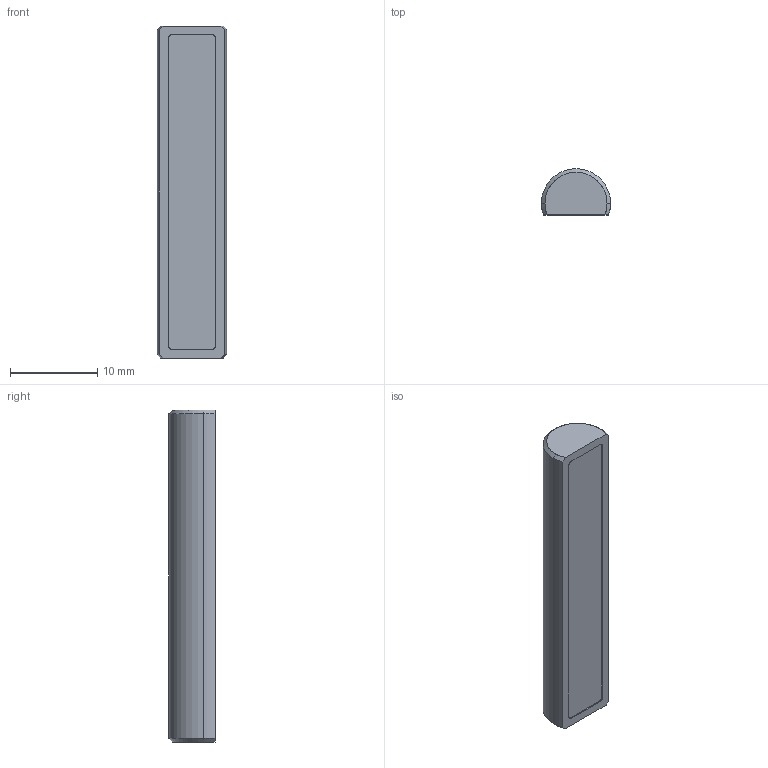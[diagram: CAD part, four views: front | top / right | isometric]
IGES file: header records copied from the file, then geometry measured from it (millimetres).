
Start section: SolidWorks IGES file using analytic representation for surfaces
Global section: file name: D:\Solid_parts\MECHeDESIGN\Bal-Tec\Catalog 105-A\Distribution\IGES\312-TCR.IGS; native system: SolidWorks 2005 by SolidWorks Corporation; preprocessor: SolidWorks 2005 by SolidWorks Corporation; author: rvillegas; date: 061205.183929; units: inch
Bounding box: 7.94 x 5.28 x 38.1 mm (x, y, z)
Surface area: 935.1 mm2 (no closed solid volume)
Topology: 0 solids, 0 shells, 21 faces, 158 edges, 158 vertices
Faces by surface type: revolution 13, bspline 8
